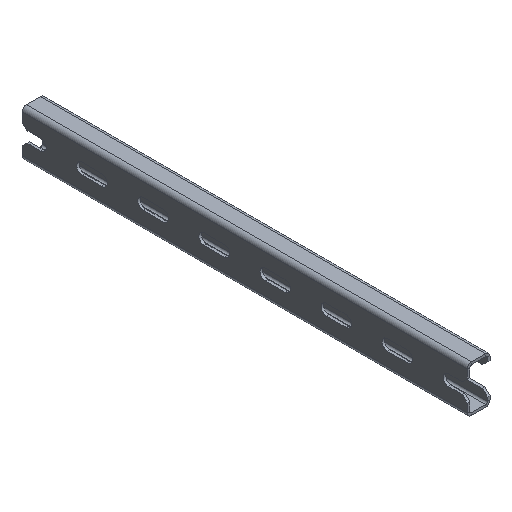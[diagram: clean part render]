
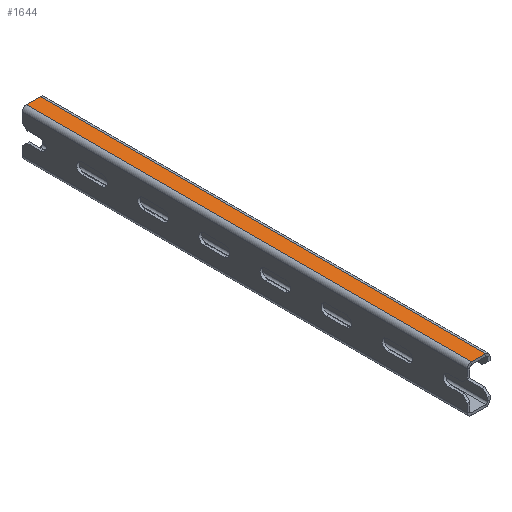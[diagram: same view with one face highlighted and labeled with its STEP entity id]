
A CAD part, isometric view. The second image highlights one B-rep face of the part: STEP entity #1644.
In plain terms, the highlighted planar face has unit normal (0, 0, 1).
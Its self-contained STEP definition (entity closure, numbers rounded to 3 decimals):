
#150 = CARTESIAN_POINT ( 'NONE',  ( 15., -182.25, 19. ) ) ;
#152 = CARTESIAN_POINT ( 'NONE',  ( 15., 182.25, 19. ) ) ;
#181 = CARTESIAN_POINT ( 'NONE',  ( 3.5, -182.25, 19. ) ) ;
#183 = CARTESIAN_POINT ( 'NONE',  ( 3.5, 182.25, 19. ) ) ;
#411 = EDGE_LOOP ( 'NONE', ( #671, #670, #673, #668 ) ) ;
#668 = ORIENTED_EDGE ( 'NONE', *, *, #1346, .T. ) ;
#670 = ORIENTED_EDGE ( 'NONE', *, *, #1345, .F. ) ;
#671 = ORIENTED_EDGE ( 'NONE', *, *, #1320, .T. ) ;
#673 = ORIENTED_EDGE ( 'NONE', *, *, #1313, .F. ) ;
#754 = VERTEX_POINT ( 'NONE', #183 ) ;
#756 = VERTEX_POINT ( 'NONE', #181 ) ;
#785 = VERTEX_POINT ( 'NONE', #152 ) ;
#787 = VERTEX_POINT ( 'NONE', #150 ) ;
#987 = AXIS2_PLACEMENT_3D ( 'NONE', #1880, #1879, #1878 ) ;
#994 = FACE_OUTER_BOUND ( 'NONE', #411, .T. ) ;
#1165 = VECTOR ( 'NONE', #2165, 1000. ) ;
#1166 = VECTOR ( 'NONE', #2168, 1000. ) ;
#1196 = VECTOR ( 'NONE', #2243, 1000. ) ;
#1208 = VECTOR ( 'NONE', #2264, 1000. ) ;
#1313 = EDGE_CURVE ( 'NONE', #754, #785, #2266, .T. ) ;
#1320 = EDGE_CURVE ( 'NONE', #756, #787, #2245, .T. ) ;
#1345 = EDGE_CURVE ( 'NONE', #785, #787, #2170, .T. ) ;
#1346 = EDGE_CURVE ( 'NONE', #754, #756, #2167, .T. ) ;
#1644 = ADVANCED_FACE ( 'NONE', ( #994 ), #1881, .F. ) ;
#1878 = DIRECTION ( 'NONE',  ( -1., 0., 0. ) ) ;
#1879 = DIRECTION ( 'NONE',  ( 0., 0., -1. ) ) ;
#1880 = CARTESIAN_POINT ( 'NONE',  ( 0., 182.25, 19. ) ) ;
#1881 = PLANE ( 'NONE',  #987 ) ;
#2165 = DIRECTION ( 'NONE',  ( 0., -1., 0. ) ) ;
#2166 = CARTESIAN_POINT ( 'NONE',  ( 3.5, 182.25, 19. ) ) ;
#2167 = LINE ( 'NONE', #2166, #1165 ) ;
#2168 = DIRECTION ( 'NONE',  ( 0., -1., 0. ) ) ;
#2169 = CARTESIAN_POINT ( 'NONE',  ( 15., 182.25, 19. ) ) ;
#2170 = LINE ( 'NONE', #2169, #1166 ) ;
#2243 = DIRECTION ( 'NONE',  ( 1., 0., 0. ) ) ;
#2244 = CARTESIAN_POINT ( 'NONE',  ( 0., -182.25, 19. ) ) ;
#2245 = LINE ( 'NONE', #2244, #1196 ) ;
#2264 = DIRECTION ( 'NONE',  ( 1., 0., 0. ) ) ;
#2265 = CARTESIAN_POINT ( 'NONE',  ( 0., 182.25, 19. ) ) ;
#2266 = LINE ( 'NONE', #2265, #1208 ) ;
